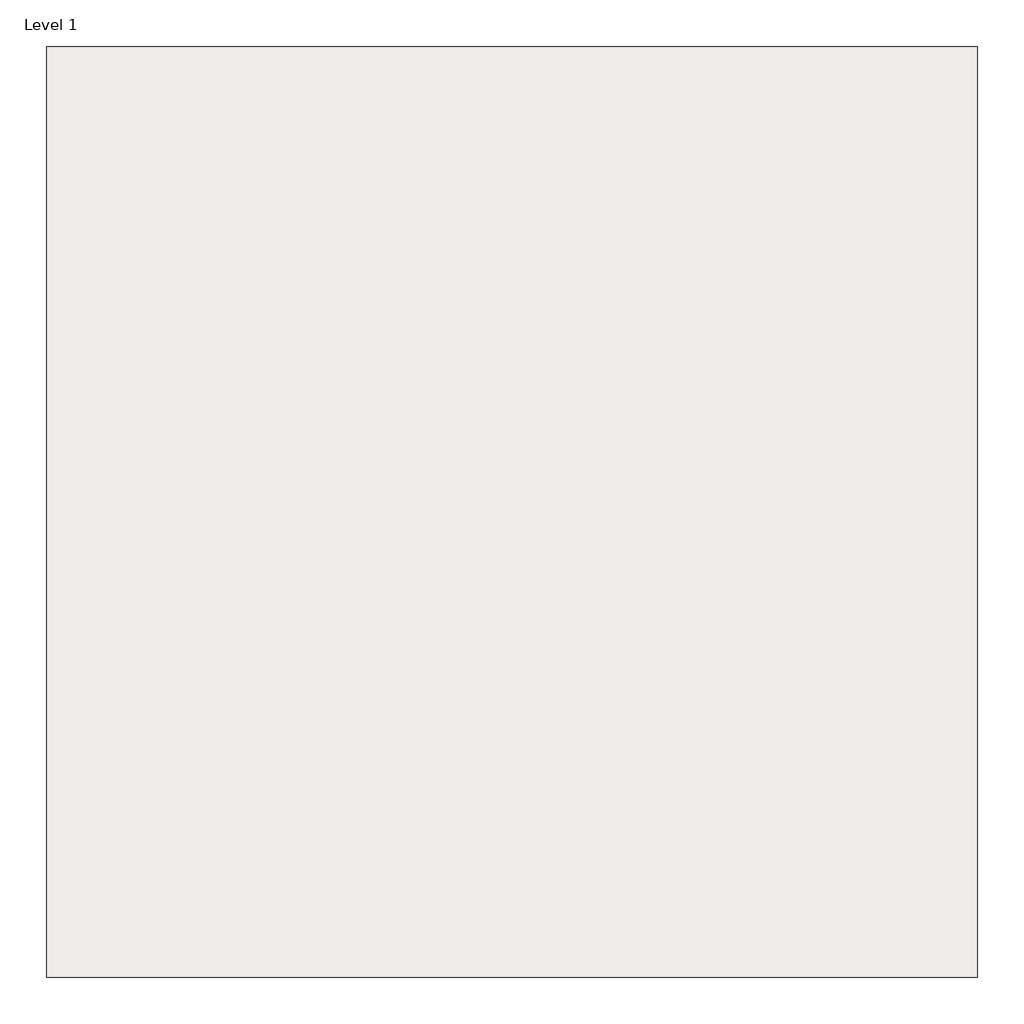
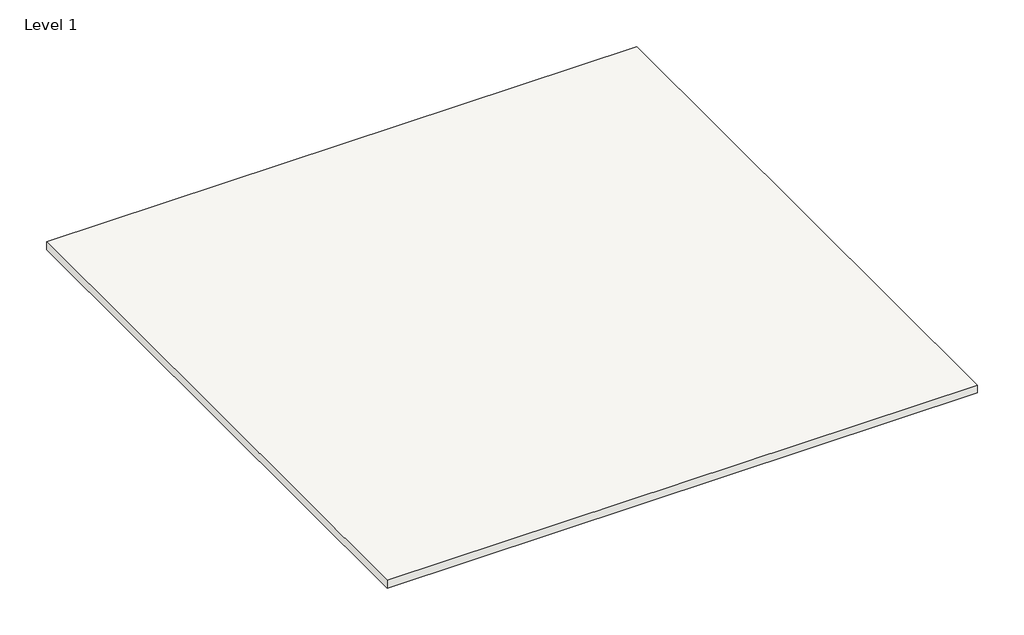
# One storey: 1 covering.
"""IFC4 building model written with IfcOpenShell, lengths in millimetres."""

from ifc_helpers import new_model, si_unit, origin, origin_with_axes, place, context, project, spatial, polyline, outline, extrude, element, save

model = new_model("IFC4")

# Units and contexts
model_context = context("Model", 3, world=origin())
ifc_project = project(units=[si_unit("LENGTHUNIT", "METRE", prefix="MILLI")], contexts=[model_context])

# Site, building, storey
site = spatial("IfcSite", under=ifc_project)
building = spatial("IfcBuilding", under=site)
storey = spatial("IfcBuildingStorey", under=building, Name="Level 1", Elevation=0.0)

# Covering
placement = place(None, origin())
element("IfcCovering", 1, ObjectType="RIGIPS - 4.05.22 - 27dB (750)", at=placement, inside=storey, context=model_context, shape_type="SweptSolid", body=[
    extrude(outline(polyline([(-1500.0, 1500.0), (1500.0, 1500.0), (1500.0, -1500.0), (-1500.0, -1500.0), (-1500.0, 1500.0)])), origin_with_axes(), (0.0, 0.0, 1.0), 42.5),
])

save(model, "model.ifc")
